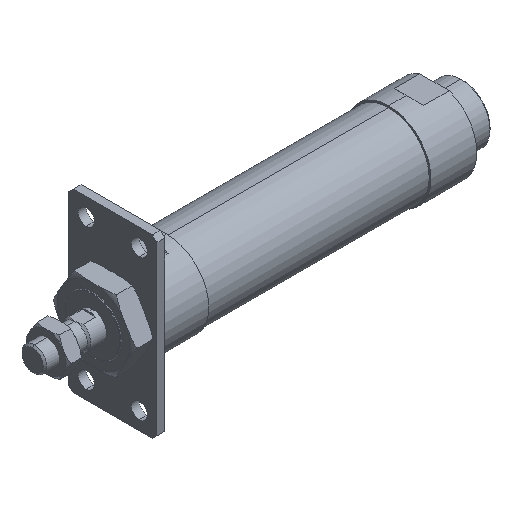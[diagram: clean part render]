
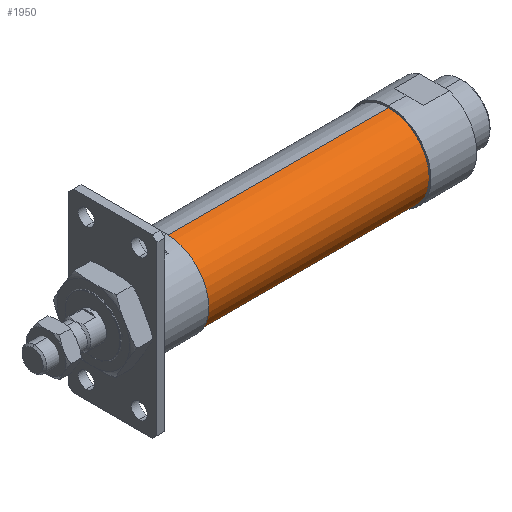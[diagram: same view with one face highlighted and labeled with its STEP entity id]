
A CAD part, isometric view. The second image highlights one B-rep face of the part: STEP entity #1950.
In plain terms, the highlighted cylindrical face has radius 23 mm (diameter 46 mm), a partial arc.
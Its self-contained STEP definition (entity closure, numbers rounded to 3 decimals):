
#153 = DIRECTION ( 'NONE',  ( -1., 0., 0. ) ) ;
#264 = DIRECTION ( 'NONE',  ( -1., 0., 0. ) ) ;
#342 = DIRECTION ( 'NONE',  ( 0., 0., 1. ) ) ;
#346 = VERTEX_POINT ( 'NONE', #3495 ) ;
#602 = FACE_OUTER_BOUND ( 'NONE', #4038, .T. ) ;
#618 = ORIENTED_EDGE ( 'NONE', *, *, #3148, .T. ) ;
#632 = CARTESIAN_POINT ( 'NONE',  ( 202., 0., -23. ) ) ;
#643 = VERTEX_POINT ( 'NONE', #632 ) ;
#695 = CIRCLE ( 'NONE', #1325, 23. ) ;
#758 = ORIENTED_EDGE ( 'NONE', *, *, #2604, .T. ) ;
#820 = CARTESIAN_POINT ( 'NONE',  ( 76., 0., 23. ) ) ;
#847 = AXIS2_PLACEMENT_3D ( 'NONE', #2227, #2639, #342 ) ;
#1100 = LINE ( 'NONE', #3486, #1189 ) ;
#1151 = VERTEX_POINT ( 'NONE', #2065 ) ;
#1189 = VECTOR ( 'NONE', #1440, 1000. ) ;
#1292 = CYLINDRICAL_SURFACE ( 'NONE', #2362, 23. ) ;
#1325 = AXIS2_PLACEMENT_3D ( 'NONE', #3655, #264, #1847 ) ;
#1440 = DIRECTION ( 'NONE',  ( -1., 0., 0. ) ) ;
#1555 = CARTESIAN_POINT ( 'NONE',  ( -1.784, 0., 0. ) ) ;
#1765 = VERTEX_POINT ( 'NONE', #820 ) ;
#1847 = DIRECTION ( 'NONE',  ( 0., 0., 1. ) ) ;
#1905 = CARTESIAN_POINT ( 'NONE',  ( -1.784, 0., 23. ) ) ;
#1950 = ADVANCED_FACE ( 'NONE', ( #602 ), #1292, .T. ) ;
#2054 = LINE ( 'NONE', #1905, #3521 ) ;
#2065 = CARTESIAN_POINT ( 'NONE',  ( 76., 0., -23. ) ) ;
#2227 = CARTESIAN_POINT ( 'NONE',  ( 76., 0., 0. ) ) ;
#2362 = AXIS2_PLACEMENT_3D ( 'NONE', #1555, #153, #2444 ) ;
#2444 = DIRECTION ( 'NONE',  ( 0., 0., 1. ) ) ;
#2604 = EDGE_CURVE ( 'NONE', #643, #346, #695, .T. ) ;
#2639 = DIRECTION ( 'NONE',  ( -1., 0., 0. ) ) ;
#3148 = EDGE_CURVE ( 'NONE', #346, #1765, #2054, .T. ) ;
#3240 = DIRECTION ( 'NONE',  ( -1., 0., 0. ) ) ;
#3486 = CARTESIAN_POINT ( 'NONE',  ( -1.784, 0., -23. ) ) ;
#3495 = CARTESIAN_POINT ( 'NONE',  ( 202., 0., 23. ) ) ;
#3521 = VECTOR ( 'NONE', #3240, 1000. ) ;
#3543 = CIRCLE ( 'NONE', #847, 23. ) ;
#3655 = CARTESIAN_POINT ( 'NONE',  ( 202., 0., 0. ) ) ;
#3978 = ORIENTED_EDGE ( 'NONE', *, *, #4069, .F. ) ;
#4012 = EDGE_CURVE ( 'NONE', #1151, #1765, #3543, .T. ) ;
#4035 = ORIENTED_EDGE ( 'NONE', *, *, #4012, .F. ) ;
#4038 = EDGE_LOOP ( 'NONE', ( #3978, #758, #618, #4035 ) ) ;
#4069 = EDGE_CURVE ( 'NONE', #643, #1151, #1100, .T. ) ;
